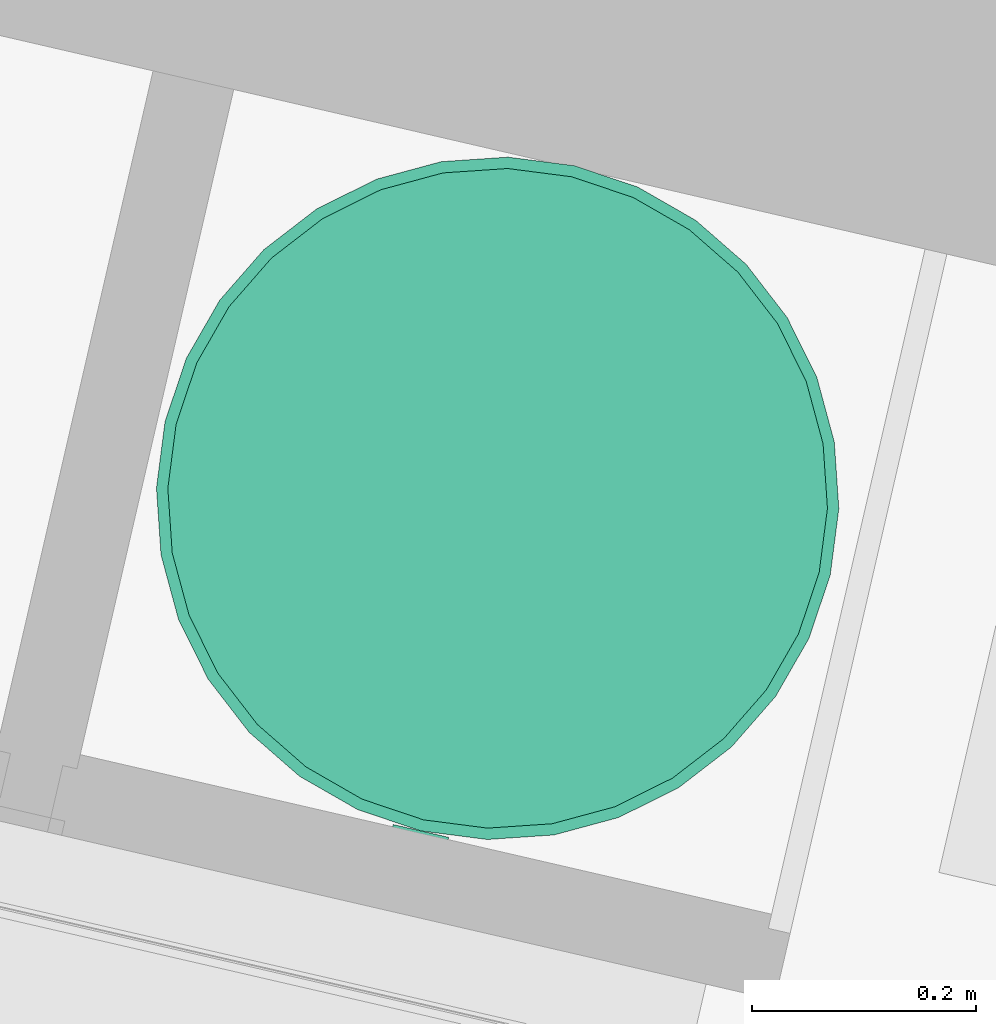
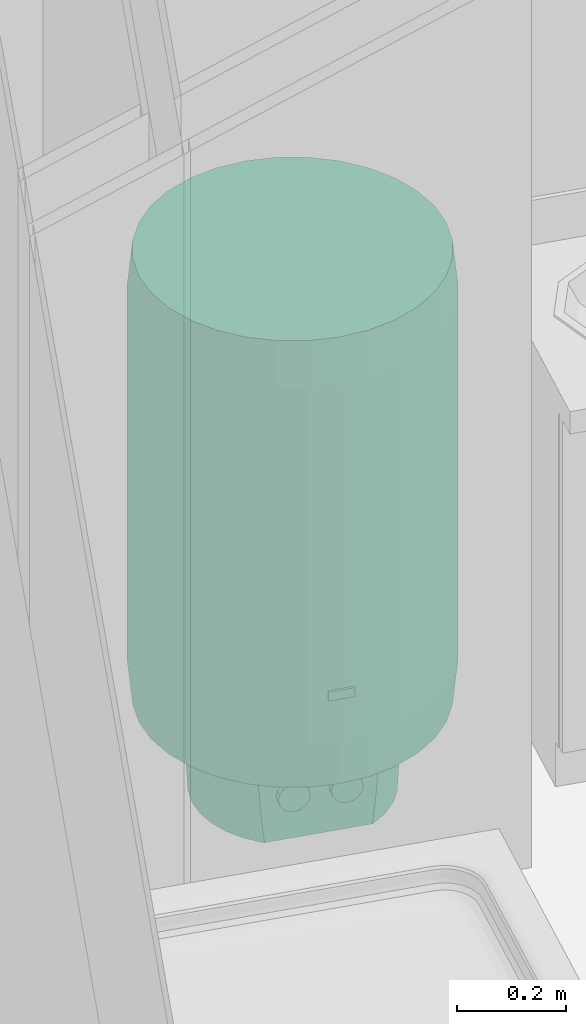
# One storey, part 107 of 119: 1 energy conversion device.
"""IFC2X3 building model written with IfcOpenShell, lengths in metres."""

from ifc_helpers import new_model, entity, si_unit, converted_unit, derived_unit, money_unit, direction, frame, origin_with_axes, place, context, subcontext, project, spatial, faceted_brep, source, transform, mapped, type_object, element, save


model = new_model("IFC2X3")

# Units and contexts
model_context = context("Model", 3, precision=1e-05, world=origin_with_axes(), true_north=direction((0.0, 1.0)))
body_context = subcontext(model_context, "Body", "Model", "MODEL_VIEW")
ifc_project = project(units=[si_unit("LENGTHUNIT", "METRE"), si_unit("AREAUNIT", "SQUARE_METRE"), si_unit("VOLUMEUNIT", "CUBIC_METRE"), converted_unit("PLANEANGLEUNIT", "DEGREE", entity("IfcPlaneAngleMeasure", 0.0174532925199), si_unit("PLANEANGLEUNIT", "RADIAN"), dimensions=[0, 0, 0, 0, 0, 0, 0]), si_unit("SOLIDANGLEUNIT", "STERADIAN"), money_unit("EUR"), converted_unit("TIMEUNIT", "Year", entity("IfcTimeMeasure", 31556926.0), si_unit("TIMEUNIT", "SECOND"), dimensions=[0, 0, 1, 0, 0, 0, 0]), si_unit("MASSUNIT", "GRAM", prefix="KILO"), si_unit("THERMODYNAMICTEMPERATUREUNIT", "DEGREE_CELSIUS"), si_unit("LUMINOUSINTENSITYUNIT", "LUMEN"), si_unit("ENERGYUNIT", "JOULE", prefix="MEGA"), derived_unit("THERMALCONDUCTANCEUNIT", [(si_unit("POWERUNIT", "WATT"), 1), (si_unit("LENGTHUNIT", "METRE"), -1), (si_unit("THERMODYNAMICTEMPERATUREUNIT", "KELVIN"), -1)]), derived_unit("SPECIFICHEATCAPACITYUNIT", [(si_unit("ENERGYUNIT", "JOULE"), 1), (si_unit("MASSUNIT", "GRAM", prefix="KILO"), -1), (si_unit("THERMODYNAMICTEMPERATUREUNIT", "KELVIN"), -1)]), derived_unit("MASSDENSITYUNIT", [(si_unit("MASSUNIT", "GRAM", prefix="KILO"), 1), (si_unit("VOLUMEUNIT", "CUBIC_METRE"), -1)])], contexts=[model_context])

# Site, building, storey
site_placement = place(None, origin_with_axes())
site = spatial("IfcSite", under=ifc_project, at=site_placement, Name="Site", CompositionType="ELEMENT")
building_placement = place(site_placement, origin_with_axes())
building = spatial("IfcBuilding", under=site, at=building_placement, Name="Bâtiment", CompositionType="ELEMENT")
storey_placement = place(building_placement, origin_with_axes())
storey = spatial("IfcBuildingStorey", under=building, at=storey_placement, Name="Rez-de-chaussée", CompositionType="ELEMENT", Elevation=0.0)

# Energy conversion device
heat_exchanger_type = type_object("IfcHeatExchangerType", Name="Chauffe-eau électrique 23", PredefinedType="SHELLANDTUBE")
shared_shape = source(origin_with_axes(), body_context, "Body", "Brep", [
    faceted_brep([(-0.0254166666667, -0.310083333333, 0.4), (-0.0254166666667, -0.305, 0.4), (0.0254166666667, -0.305, 0.4), (0.0254166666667, -0.310083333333, 0.4), (-0.0254166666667, -0.310083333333, 0.42), (-0.0254166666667, -0.305, 0.42), (0.0254166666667, -0.305, 0.42), (0.0254166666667, -0.310083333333, 0.42)], [[[0, 1, 2, 3]], [[0, 4, 5, 1]], [[1, 5, 6, 2]], [[2, 6, 7, 3]], [[3, 7, 4, 0]], [[7, 6, 5, 4]]]),
    faceted_brep([(0.0226550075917, -0.162666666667, 0.0883281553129), (0.0203333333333, -0.162666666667, 0.1), (0.0226550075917, -0.162666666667, 0.111671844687), (0.0292665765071, -0.162666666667, 0.121566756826), (0.0391614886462, -0.162666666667, 0.128178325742), (0.0508333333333, -0.162666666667, 0.1305), (0.0625051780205, -0.162666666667, 0.128178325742), (0.0724000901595, -0.162666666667, 0.121566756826), (0.0790116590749, -0.162666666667, 0.111671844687), (0.0813333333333, -0.162666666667, 0.1), (0.0790116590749, -0.162666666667, 0.0883281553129), (0.0724000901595, -0.162666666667, 0.0784332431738), (0.0625051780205, -0.162666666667, 0.0718216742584), (0.0508333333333, -0.162666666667, 0.0695), (0.0391614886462, -0.162666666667, 0.0718216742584), (0.0292665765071, -0.162666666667, 0.0784332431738), (0.0226550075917, -0.177916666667, 0.0883281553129), (0.0203333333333, -0.177916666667, 0.1), (0.0226550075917, -0.177916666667, 0.111671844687), (0.0292665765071, -0.177916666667, 0.121566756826), (0.0391614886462, -0.177916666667, 0.128178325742), (0.0508333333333, -0.177916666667, 0.1305), (0.0625051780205, -0.177916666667, 0.128178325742), (0.0724000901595, -0.177916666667, 0.121566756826), (0.0790116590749, -0.177916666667, 0.111671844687), (0.0813333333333, -0.177916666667, 0.1), (0.0790116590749, -0.177916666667, 0.0883281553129), (0.0724000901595, -0.177916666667, 0.0784332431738), (0.0625051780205, -0.177916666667, 0.0718216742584), (0.0508333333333, -0.177916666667, 0.0695), (0.0391614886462, -0.177916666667, 0.0718216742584), (0.0292665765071, -0.177916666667, 0.0784332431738)], [[[0, 1, 2, 3, 4, 5, 6, 7, 8, 9, 10, 11, 12, 13, 14, 15]], [[0, 16, 17, 1]], [[1, 17, 18, 2]], [[2, 18, 19, 3]], [[3, 19, 20, 4]], [[4, 20, 21, 5]], [[5, 21, 22, 6]], [[6, 22, 23, 7]], [[7, 23, 24, 8]], [[8, 24, 25, 9]], [[9, 25, 26, 10]], [[10, 26, 27, 11]], [[11, 27, 28, 12]], [[12, 28, 29, 13]], [[13, 29, 30, 14]], [[14, 30, 31, 15]], [[15, 31, 16, 0]], [[16, 31, 30, 29, 28, 27, 26, 25, 24, 23, 22, 21, 20, 19, 18, 17]]]),
    faceted_brep([(-0.0790116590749, -0.162666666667, 0.0883281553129), (-0.0813333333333, -0.162666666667, 0.1), (-0.0790116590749, -0.162666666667, 0.111671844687), (-0.0724000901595, -0.162666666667, 0.121566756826), (-0.0625051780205, -0.162666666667, 0.128178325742), (-0.0508333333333, -0.162666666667, 0.1305), (-0.0391614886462, -0.162666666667, 0.128178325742), (-0.0292665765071, -0.162666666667, 0.121566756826), (-0.0226550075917, -0.162666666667, 0.111671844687), (-0.0203333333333, -0.162666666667, 0.1), (-0.0226550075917, -0.162666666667, 0.0883281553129), (-0.0292665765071, -0.162666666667, 0.0784332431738), (-0.0391614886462, -0.162666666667, 0.0718216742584), (-0.0508333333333, -0.162666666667, 0.0695), (-0.0625051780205, -0.162666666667, 0.0718216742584), (-0.0724000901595, -0.162666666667, 0.0784332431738), (-0.0790116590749, -0.177916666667, 0.0883281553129), (-0.0813333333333, -0.177916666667, 0.1), (-0.0790116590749, -0.177916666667, 0.111671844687), (-0.0724000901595, -0.177916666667, 0.121566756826), (-0.0625051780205, -0.177916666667, 0.128178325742), (-0.0508333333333, -0.177916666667, 0.1305), (-0.0391614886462, -0.177916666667, 0.128178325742), (-0.0292665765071, -0.177916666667, 0.121566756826), (-0.0226550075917, -0.177916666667, 0.111671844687), (-0.0203333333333, -0.177916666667, 0.1), (-0.0226550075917, -0.177916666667, 0.0883281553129), (-0.0292665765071, -0.177916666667, 0.0784332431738), (-0.0391614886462, -0.177916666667, 0.0718216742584), (-0.0508333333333, -0.177916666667, 0.0695), (-0.0625051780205, -0.177916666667, 0.0718216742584), (-0.0724000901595, -0.177916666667, 0.0784332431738)], [[[0, 1, 2, 3, 4, 5, 6, 7, 8, 9, 10, 11, 12, 13, 14, 15]], [[0, 16, 17, 1]], [[1, 17, 18, 2]], [[2, 18, 19, 3]], [[3, 19, 20, 4]], [[4, 20, 21, 5]], [[5, 21, 22, 6]], [[6, 22, 23, 7]], [[7, 23, 24, 8]], [[8, 24, 25, 9]], [[9, 25, 26, 10]], [[10, 26, 27, 11]], [[11, 27, 28, 12]], [[12, 28, 29, 13]], [[13, 29, 30, 14]], [[14, 30, 31, 15]], [[15, 31, 16, 0]], [[16, 31, 30, 29, 28, 27, 26, 25, 24, 23, 22, 21, 20, 19, 18, 17]]]),
    faceted_brep([(-0.189455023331, -0.0376849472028, 0.0), (-0.199426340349, -0.0396683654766, 0.2), (-0.203333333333, 0.0, 0.2), (-0.193166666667, 0.0, 0.0), (-0.178462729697, -0.0739216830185, 0.0), (-0.187855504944, -0.0778122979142, 0.2), (-0.169065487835, -0.112965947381, 0.2), (-0.143778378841, -0.143778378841, 0.2), (-0.120762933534, -0.162666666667, 0.2), (0.120762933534, -0.162666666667, 0.2), (0.143778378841, -0.143778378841, 0.2), (0.169065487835, -0.112965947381, 0.2), (0.187855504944, -0.0778122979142, 0.2), (0.199426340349, -0.0396683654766, 0.2), (0.203333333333, 0.0, 0.2), (0.199426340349, 0.0396683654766, 0.2), (0.187855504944, 0.0778122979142, 0.2), (0.169065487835, 0.112965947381, 0.2), (0.143778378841, 0.143778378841, 0.2), (0.112965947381, 0.169065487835, 0.2), (0.0778122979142, 0.187855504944, 0.2), (0.0396683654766, 0.199426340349, 0.2), (0.0, 0.203333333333, 0.2), (-0.0396683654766, 0.199426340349, 0.2), (-0.0778122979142, 0.187855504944, 0.2), (-0.112965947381, 0.169065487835, 0.2), (-0.143778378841, 0.143778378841, 0.2), (-0.169065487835, 0.112965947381, 0.2), (-0.187855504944, 0.0778122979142, 0.2), (-0.199426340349, 0.0396683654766, 0.2), (-0.189455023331, 0.0376849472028, 0.0), (-0.178462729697, 0.0739216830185, 0.0), (-0.160612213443, 0.107317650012, 0.0), (-0.136589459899, 0.136589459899, 0.0), (-0.107317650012, 0.160612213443, 0.0), (-0.0739216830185, 0.178462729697, 0.0), (-0.0376849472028, 0.189455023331, 0.0), (0.0, 0.193166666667, 0.0), (0.0376849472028, 0.189455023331, 0.0), (0.0739216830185, 0.178462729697, 0.0), (0.107317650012, 0.160612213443, 0.0), (0.136589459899, 0.136589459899, 0.0), (0.160612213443, 0.107317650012, 0.0), (0.178462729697, 0.0739216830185, 0.0), (0.189455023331, 0.0376849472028, 0.0), (0.193166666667, 0.0, 0.0), (0.189455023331, -0.0376849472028, 0.0), (0.178462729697, -0.0739216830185, 0.0), (0.160612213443, -0.107317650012, 0.0), (0.136589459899, -0.136589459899, 0.0), (0.107317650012, -0.160612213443, 0.0), (0.103474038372, -0.162666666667, 0.0), (-0.103474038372, -0.162666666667, 0.0), (-0.107317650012, -0.160612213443, 0.0), (-0.136589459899, -0.136589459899, 0.0), (-0.160612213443, -0.107317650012, 0.0), (-0.108690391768, -0.162666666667, 0.0486072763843), (0.108690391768, -0.162666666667, 0.0486072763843)], [[[0, 1, 2, 3]], [[4, 5, 1, 0]], [[1, 5, 6, 7, 8, 9, 10, 11, 12, 13, 14, 15, 16, 17, 18, 19, 20, 21, 22, 23, 24, 25, 26, 27, 28, 29, 2]], [[3, 2, 29, 30]], [[0, 3, 30, 31, 32, 33, 34, 35, 36, 37, 38, 39, 40, 41, 42, 43, 44, 45, 46, 47, 48, 49, 50, 51, 52, 53, 54, 55, 4]], [[55, 6, 5, 4]], [[54, 7, 6, 55]], [[53, 56, 8, 7, 54]], [[51, 57, 9, 8, 56, 52]], [[49, 10, 9, 57, 50]], [[48, 11, 10, 49]], [[47, 12, 11, 48]], [[46, 13, 12, 47]], [[45, 14, 13, 46]], [[44, 15, 14, 45]], [[43, 16, 15, 44]], [[42, 17, 16, 43]], [[41, 18, 17, 42]], [[40, 19, 18, 41]], [[39, 20, 19, 40]], [[38, 21, 20, 39]], [[37, 22, 21, 38]], [[36, 23, 22, 37]], [[35, 24, 23, 36]], [[34, 25, 24, 35]], [[33, 26, 25, 34]], [[32, 27, 26, 33]], [[31, 28, 27, 32]], [[30, 29, 28, 31]], [[50, 57, 51]], [[52, 56, 53]]]),
    faceted_brep([(-0.289168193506, -0.0575191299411, 0.2), (-0.299139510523, -0.0595025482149, 0.3), (-0.305, 0.0, 0.3), (-0.294833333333, 0.0, 0.2), (-0.272390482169, -0.112827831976, 0.2), (-0.281783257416, -0.116718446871, 0.3), (-0.253598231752, -0.169448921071, 0.3), (-0.215667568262, -0.215667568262, 0.3), (-0.169448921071, -0.253598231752, 0.3), (-0.116718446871, -0.281783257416, 0.3), (-0.0595025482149, -0.299139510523, 0.3), (0.0, -0.305, 0.3), (0.0595025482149, -0.299139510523, 0.3), (0.116718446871, -0.281783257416, 0.3), (0.169448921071, -0.253598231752, 0.3), (0.215667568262, -0.215667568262, 0.3), (0.253598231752, -0.169448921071, 0.3), (0.281783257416, -0.116718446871, 0.3), (0.299139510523, -0.0595025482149, 0.3), (0.305, 0.0, 0.3), (0.299139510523, 0.0595025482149, 0.3), (0.281783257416, 0.116718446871, 0.3), (0.253598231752, 0.169448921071, 0.3), (0.215667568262, 0.215667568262, 0.3), (0.169448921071, 0.253598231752, 0.3), (0.116718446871, 0.281783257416, 0.3), (0.0595025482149, 0.299139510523, 0.3), (0.0, 0.305, 0.3), (-0.0595025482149, 0.299139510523, 0.3), (-0.116718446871, 0.281783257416, 0.3), (-0.169448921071, 0.253598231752, 0.3), (-0.215667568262, 0.215667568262, 0.3), (-0.253598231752, 0.169448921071, 0.3), (-0.281783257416, 0.116718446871, 0.3), (-0.299139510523, 0.0595025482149, 0.3), (-0.289168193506, 0.0575191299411, 0.2), (-0.272390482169, 0.112827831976, 0.2), (-0.245144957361, 0.163800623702, 0.2), (-0.20847864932, 0.20847864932, 0.2), (-0.163800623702, 0.245144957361, 0.2), (-0.112827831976, 0.272390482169, 0.2), (-0.0575191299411, 0.289168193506, 0.2), (0.0, 0.294833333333, 0.2), (0.0575191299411, 0.289168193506, 0.2), (0.112827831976, 0.272390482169, 0.2), (0.163800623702, 0.245144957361, 0.2), (0.20847864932, 0.20847864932, 0.2), (0.245144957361, 0.163800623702, 0.2), (0.272390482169, 0.112827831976, 0.2), (0.289168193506, 0.0575191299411, 0.2), (0.294833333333, 0.0, 0.2), (0.289168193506, -0.0575191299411, 0.2), (0.272390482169, -0.112827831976, 0.2), (0.245144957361, -0.163800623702, 0.2), (0.20847864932, -0.20847864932, 0.2), (0.163800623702, -0.245144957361, 0.2), (0.112827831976, -0.272390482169, 0.2), (0.0575191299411, -0.289168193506, 0.2), (0.0, -0.294833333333, 0.2), (-0.0575191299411, -0.289168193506, 0.2), (-0.112827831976, -0.272390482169, 0.2), (-0.163800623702, -0.245144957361, 0.2), (-0.20847864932, -0.20847864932, 0.2), (-0.245144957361, -0.163800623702, 0.2)], [[[0, 1, 2, 3]], [[4, 5, 1, 0]], [[1, 5, 6, 7, 8, 9, 10, 11, 12, 13, 14, 15, 16, 17, 18, 19, 20, 21, 22, 23, 24, 25, 26, 27, 28, 29, 30, 31, 32, 33, 34, 2]], [[3, 2, 34, 35]], [[0, 3, 35, 36, 37, 38, 39, 40, 41, 42, 43, 44, 45, 46, 47, 48, 49, 50, 51, 52, 53, 54, 55, 56, 57, 58, 59, 60, 61, 62, 63, 4]], [[63, 6, 5, 4]], [[62, 7, 6, 63]], [[61, 8, 7, 62]], [[60, 9, 8, 61]], [[59, 10, 9, 60]], [[58, 11, 10, 59]], [[57, 12, 11, 58]], [[56, 13, 12, 57]], [[55, 14, 13, 56]], [[54, 15, 14, 55]], [[53, 16, 15, 54]], [[52, 17, 16, 53]], [[51, 18, 17, 52]], [[50, 19, 18, 51]], [[49, 20, 19, 50]], [[48, 21, 20, 49]], [[47, 22, 21, 48]], [[46, 23, 22, 47]], [[45, 24, 23, 46]], [[44, 25, 24, 45]], [[43, 26, 25, 44]], [[42, 27, 26, 43]], [[41, 28, 27, 42]], [[40, 29, 28, 41]], [[39, 30, 29, 40]], [[38, 31, 30, 39]], [[37, 32, 31, 38]], [[36, 33, 32, 37]], [[35, 34, 33, 36]]]),
    faceted_brep([(-0.299139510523, -0.0595025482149, 0.3), (-0.305, 0.0, 0.3), (-0.299139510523, 0.0595025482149, 0.3), (-0.281783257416, 0.116718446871, 0.3), (-0.253598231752, 0.169448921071, 0.3), (-0.215667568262, 0.215667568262, 0.3), (-0.169448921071, 0.253598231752, 0.3), (-0.116718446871, 0.281783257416, 0.3), (-0.0595025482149, 0.299139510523, 0.3), (0.0, 0.305, 0.3), (0.0595025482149, 0.299139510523, 0.3), (0.116718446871, 0.281783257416, 0.3), (0.169448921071, 0.253598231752, 0.3), (0.215667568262, 0.215667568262, 0.3), (0.253598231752, 0.169448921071, 0.3), (0.281783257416, 0.116718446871, 0.3), (0.299139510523, 0.0595025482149, 0.3), (0.305, 0.0, 0.3), (0.299139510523, -0.0595025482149, 0.3), (0.281783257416, -0.116718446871, 0.3), (0.253598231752, -0.169448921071, 0.3), (0.215667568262, -0.215667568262, 0.3), (0.169448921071, -0.253598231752, 0.3), (0.116718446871, -0.281783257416, 0.3), (0.0595025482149, -0.299139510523, 0.3), (0.0, -0.305, 0.3), (-0.0595025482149, -0.299139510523, 0.3), (-0.116718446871, -0.281783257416, 0.3), (-0.169448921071, -0.253598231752, 0.3), (-0.215667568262, -0.215667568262, 0.3), (-0.253598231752, -0.169448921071, 0.3), (-0.281783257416, -0.116718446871, 0.3), (-0.299139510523, -0.0595025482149, 1.1), (-0.305, 0.0, 1.1), (-0.299139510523, 0.0595025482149, 1.1), (-0.281783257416, 0.116718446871, 1.1), (-0.253598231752, 0.169448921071, 1.1), (-0.215667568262, 0.215667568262, 1.1), (-0.169448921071, 0.253598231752, 1.1), (-0.116718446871, 0.281783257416, 1.1), (-0.0595025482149, 0.299139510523, 1.1), (0.0, 0.305, 1.1), (0.0595025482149, 0.299139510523, 1.1), (0.116718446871, 0.281783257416, 1.1), (0.169448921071, 0.253598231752, 1.1), (0.215667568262, 0.215667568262, 1.1), (0.253598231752, 0.169448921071, 1.1), (0.281783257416, 0.116718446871, 1.1), (0.299139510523, 0.0595025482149, 1.1), (0.305, 0.0, 1.1), (0.299139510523, -0.0595025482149, 1.1), (0.281783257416, -0.116718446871, 1.1), (0.253598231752, -0.169448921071, 1.1), (0.215667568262, -0.215667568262, 1.1), (0.169448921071, -0.253598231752, 1.1), (0.116718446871, -0.281783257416, 1.1), (0.0595025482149, -0.299139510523, 1.1), (0.0, -0.305, 1.1), (-0.0595025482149, -0.299139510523, 1.1), (-0.116718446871, -0.281783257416, 1.1), (-0.169448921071, -0.253598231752, 1.1), (-0.215667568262, -0.215667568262, 1.1), (-0.253598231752, -0.169448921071, 1.1), (-0.281783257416, -0.116718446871, 1.1)], [[[0, 1, 2, 3, 4, 5, 6, 7, 8, 9, 10, 11, 12, 13, 14, 15, 16, 17, 18, 19, 20, 21, 22, 23, 24, 25, 26, 27, 28, 29, 30, 31]], [[0, 32, 33, 1]], [[1, 33, 34, 2]], [[2, 34, 35, 3]], [[3, 35, 36, 4]], [[4, 36, 37, 5]], [[5, 37, 38, 6]], [[6, 38, 39, 7]], [[7, 39, 40, 8]], [[8, 40, 41, 9]], [[9, 41, 42, 10]], [[10, 42, 43, 11]], [[11, 43, 44, 12]], [[12, 44, 45, 13]], [[13, 45, 46, 14]], [[14, 46, 47, 15]], [[15, 47, 48, 16]], [[16, 48, 49, 17]], [[17, 49, 50, 18]], [[18, 50, 51, 19]], [[19, 51, 52, 20]], [[20, 52, 53, 21]], [[21, 53, 54, 22]], [[22, 54, 55, 23]], [[23, 55, 56, 24]], [[24, 56, 57, 25]], [[25, 57, 58, 26]], [[26, 58, 59, 27]], [[27, 59, 60, 28]], [[28, 60, 61, 29]], [[29, 61, 62, 30]], [[30, 62, 63, 31]], [[31, 63, 32, 0]], [[32, 63, 62, 61, 60, 59, 58, 57, 56, 55, 54, 53, 52, 51, 50, 49, 48, 47, 46, 45, 44, 43, 42, 41, 40, 39, 38, 37, 36, 35, 34, 33]]]),
    faceted_brep([(-0.299139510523, -0.0595025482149, 1.1), (-0.289168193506, -0.0575191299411, 1.2), (-0.294833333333, 0.0, 1.2), (-0.305, 0.0, 1.1), (-0.281783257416, -0.116718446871, 1.1), (-0.272390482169, -0.112827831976, 1.2), (-0.245144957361, -0.163800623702, 1.2), (-0.20847864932, -0.20847864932, 1.2), (-0.163800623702, -0.245144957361, 1.2), (-0.112827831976, -0.272390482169, 1.2), (-0.0575191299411, -0.289168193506, 1.2), (0.0, -0.294833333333, 1.2), (0.0575191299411, -0.289168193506, 1.2), (0.112827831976, -0.272390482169, 1.2), (0.163800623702, -0.245144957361, 1.2), (0.20847864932, -0.20847864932, 1.2), (0.245144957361, -0.163800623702, 1.2), (0.272390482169, -0.112827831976, 1.2), (0.289168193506, -0.0575191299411, 1.2), (0.294833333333, 0.0, 1.2), (0.289168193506, 0.0575191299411, 1.2), (0.272390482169, 0.112827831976, 1.2), (0.245144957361, 0.163800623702, 1.2), (0.20847864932, 0.20847864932, 1.2), (0.163800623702, 0.245144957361, 1.2), (0.112827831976, 0.272390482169, 1.2), (0.0575191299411, 0.289168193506, 1.2), (0.0, 0.294833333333, 1.2), (-0.0575191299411, 0.289168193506, 1.2), (-0.112827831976, 0.272390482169, 1.2), (-0.163800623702, 0.245144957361, 1.2), (-0.20847864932, 0.20847864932, 1.2), (-0.245144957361, 0.163800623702, 1.2), (-0.272390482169, 0.112827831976, 1.2), (-0.289168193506, 0.0575191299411, 1.2), (-0.299139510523, 0.0595025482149, 1.1), (-0.281783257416, 0.116718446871, 1.1), (-0.253598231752, 0.169448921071, 1.1), (-0.215667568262, 0.215667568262, 1.1), (-0.169448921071, 0.253598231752, 1.1), (-0.116718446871, 0.281783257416, 1.1), (-0.0595025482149, 0.299139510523, 1.1), (0.0, 0.305, 1.1), (0.0595025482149, 0.299139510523, 1.1), (0.116718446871, 0.281783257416, 1.1), (0.169448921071, 0.253598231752, 1.1), (0.215667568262, 0.215667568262, 1.1), (0.253598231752, 0.169448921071, 1.1), (0.281783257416, 0.116718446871, 1.1), (0.299139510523, 0.0595025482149, 1.1), (0.305, 0.0, 1.1), (0.299139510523, -0.0595025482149, 1.1), (0.281783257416, -0.116718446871, 1.1), (0.253598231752, -0.169448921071, 1.1), (0.215667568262, -0.215667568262, 1.1), (0.169448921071, -0.253598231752, 1.1), (0.116718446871, -0.281783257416, 1.1), (0.0595025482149, -0.299139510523, 1.1), (0.0, -0.305, 1.1), (-0.0595025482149, -0.299139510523, 1.1), (-0.116718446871, -0.281783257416, 1.1), (-0.169448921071, -0.253598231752, 1.1), (-0.215667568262, -0.215667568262, 1.1), (-0.253598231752, -0.169448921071, 1.1)], [[[0, 1, 2, 3]], [[4, 5, 1, 0]], [[1, 5, 6, 7, 8, 9, 10, 11, 12, 13, 14, 15, 16, 17, 18, 19, 20, 21, 22, 23, 24, 25, 26, 27, 28, 29, 30, 31, 32, 33, 34, 2]], [[3, 2, 34, 35]], [[0, 3, 35, 36, 37, 38, 39, 40, 41, 42, 43, 44, 45, 46, 47, 48, 49, 50, 51, 52, 53, 54, 55, 56, 57, 58, 59, 60, 61, 62, 63, 4]], [[63, 6, 5, 4]], [[62, 7, 6, 63]], [[61, 8, 7, 62]], [[60, 9, 8, 61]], [[59, 10, 9, 60]], [[58, 11, 10, 59]], [[57, 12, 11, 58]], [[56, 13, 12, 57]], [[55, 14, 13, 56]], [[54, 15, 14, 55]], [[53, 16, 15, 54]], [[52, 17, 16, 53]], [[51, 18, 17, 52]], [[50, 19, 18, 51]], [[49, 20, 19, 50]], [[48, 21, 20, 49]], [[47, 22, 21, 48]], [[46, 23, 22, 47]], [[45, 24, 23, 46]], [[44, 25, 24, 45]], [[43, 26, 25, 44]], [[42, 27, 26, 43]], [[41, 28, 27, 42]], [[40, 29, 28, 41]], [[39, 30, 29, 40]], [[38, 31, 30, 39]], [[37, 32, 31, 38]], [[36, 33, 32, 37]], [[35, 34, 33, 36]]]),
])
energy_conversion_device_placement = place(storey_placement, frame((-10.1015578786, 11.5785123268, 0.0), z_axis=(0.0, 0.0, 1.0), x_axis=(0.974387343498, -0.224876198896, 0.0)))
element("IfcEnergyConversionDevice", 1, at=energy_conversion_device_placement, inside=storey, type_object=heat_exchanger_type, Name="MOB-002", context=body_context, shape_type="MappedRepresentation", body=[
    mapped(shared_shape, transform((0.0, 0.0, 0.0))),
])

save(model, "model.ifc")
